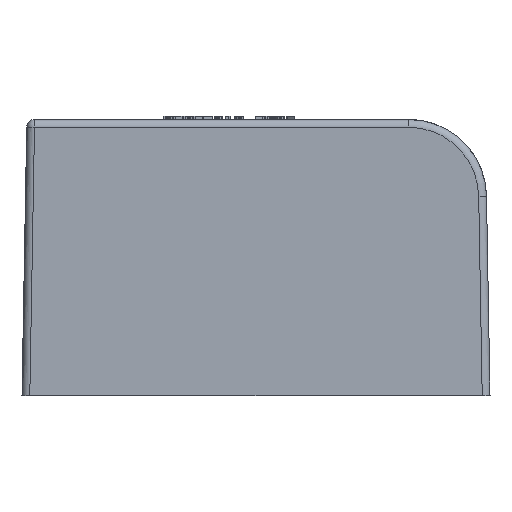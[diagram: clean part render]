
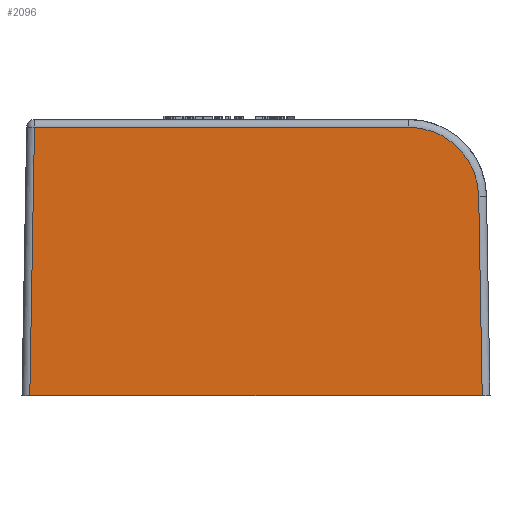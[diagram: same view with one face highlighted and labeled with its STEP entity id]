
A CAD part, front view. The second image highlights one B-rep face of the part: STEP entity #2096.
In plain terms, the highlighted planar face has unit normal (0, -1, 0).
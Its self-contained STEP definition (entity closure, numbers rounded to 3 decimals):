
#411 = LINE ( 'NONE', #4212, #9593 ) ;
#923 = CARTESIAN_POINT ( 'NONE',  ( -15., -35.525, 0. ) ) ;
#934 = CARTESIAN_POINT ( 'NONE',  ( 9.778, -35.525, 12.7 ) ) ;
#1533 = EDGE_CURVE ( 'NONE', #3600, #12285, #12688, .T. ) ;
#1720 = CARTESIAN_POINT ( 'NONE',  ( -14.5, -35.525, 0. ) ) ;
#2096 = ADVANCED_FACE ( 'NONE', ( #22185 ), #5557, .T. ) ;
#2247 = DIRECTION ( 'NONE',  ( -0.017, 0., 1. ) ) ;
#2320 = LINE ( 'NONE', #923, #20994 ) ;
#2846 = DIRECTION ( 'NONE',  ( 0., 0., -1. ) ) ;
#2915 = CARTESIAN_POINT ( 'NONE',  ( -14.2, -35.525, 17.2 ) ) ;
#3600 = VERTEX_POINT ( 'NONE', #8408 ) ;
#4212 = CARTESIAN_POINT ( 'NONE',  ( -14.691, -35.525, 17.2 ) ) ;
#4246 = CARTESIAN_POINT ( 'NONE',  ( 14.277, -35.525, 12.779 ) ) ;
#4385 = CARTESIAN_POINT ( 'NONE',  ( 14.5, -35.525, 0. ) ) ;
#4630 = VERTEX_POINT ( 'NONE', #2915 ) ;
#5557 = PLANE ( 'NONE',  #9596 ) ;
#5795 = CARTESIAN_POINT ( 'NONE',  ( -14.5, -35.525, -0.009 ) ) ;
#6894 = ORIENTED_EDGE ( 'NONE', *, *, #1533, .T. ) ;
#7574 = EDGE_CURVE ( 'NONE', #12285, #4630, #411, .T. ) ;
#8395 = VECTOR ( 'NONE', #11305, 1000. ) ;
#8408 = CARTESIAN_POINT ( 'NONE',  ( 14.277, -35.525, 12.779 ) ) ;
#9593 = VECTOR ( 'NONE', #15259, 1000. ) ;
#9596 = AXIS2_PLACEMENT_3D ( 'NONE', #12888, #22376, #14843 ) ;
#10229 = DIRECTION ( 'NONE',  ( 0., -1., 0. ) ) ;
#11305 = DIRECTION ( 'NONE',  ( -0.017, 0., -1. ) ) ;
#11492 = VERTEX_POINT ( 'NONE', #4385 ) ;
#12192 = ORIENTED_EDGE ( 'NONE', *, *, #17520, .T. ) ;
#12285 = VERTEX_POINT ( 'NONE', #23756 ) ;
#12688 = CIRCLE ( 'NONE', #14970, 4.5 ) ;
#12725 = VECTOR ( 'NONE', #2247, 1000. ) ;
#12888 = CARTESIAN_POINT ( 'NONE',  ( 15., -35.525, 0. ) ) ;
#13901 = DIRECTION ( 'NONE',  ( 1., 0., 0. ) ) ;
#14433 = LINE ( 'NONE', #5795, #8395 ) ;
#14468 = VERTEX_POINT ( 'NONE', #1720 ) ;
#14776 = ORIENTED_EDGE ( 'NONE', *, *, #22535, .T. ) ;
#14843 = DIRECTION ( 'NONE',  ( 0., 0., -1. ) ) ;
#14970 = AXIS2_PLACEMENT_3D ( 'NONE', #934, #10229, #2846 ) ;
#15259 = DIRECTION ( 'NONE',  ( -1., 0., 0. ) ) ;
#16191 = LINE ( 'NONE', #4246, #12725 ) ;
#17520 = EDGE_CURVE ( 'NONE', #11492, #3600, #16191, .T. ) ;
#17905 = ORIENTED_EDGE ( 'NONE', *, *, #7574, .T. ) ;
#19155 = EDGE_CURVE ( 'NONE', #14468, #11492, #2320, .T. ) ;
#20994 = VECTOR ( 'NONE', #13901, 1000. ) ;
#22185 = FACE_OUTER_BOUND ( 'NONE', #23810, .T. ) ;
#22376 = DIRECTION ( 'NONE',  ( 0., -1., 0. ) ) ;
#22535 = EDGE_CURVE ( 'NONE', #4630, #14468, #14433, .T. ) ;
#22842 = ORIENTED_EDGE ( 'NONE', *, *, #19155, .T. ) ;
#23756 = CARTESIAN_POINT ( 'NONE',  ( 9.778, -35.525, 17.2 ) ) ;
#23810 = EDGE_LOOP ( 'NONE', ( #22842, #12192, #6894, #17905, #14776 ) ) ;
